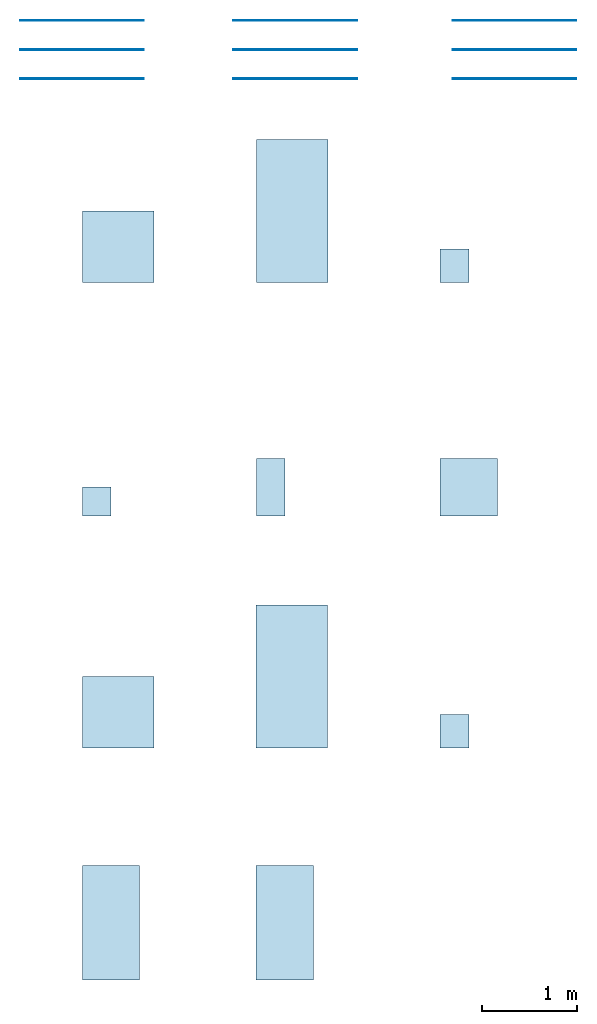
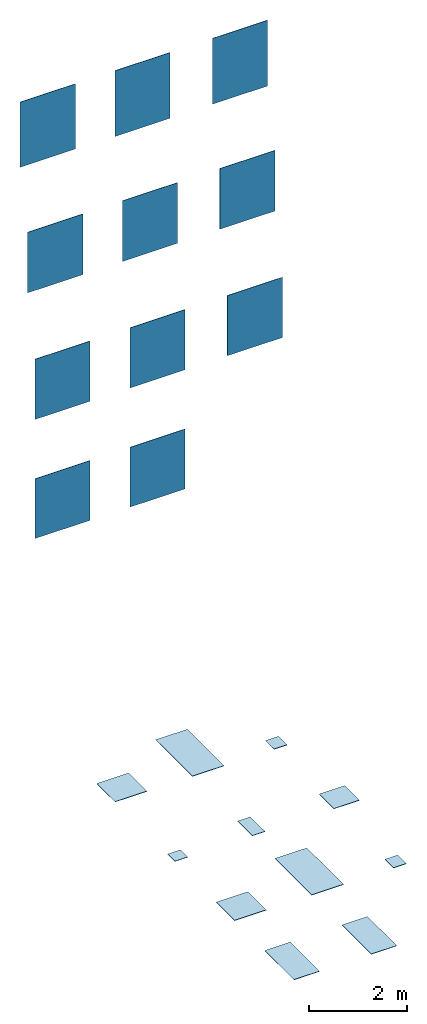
# One storey: 11 slabs, 11 walls.
"""IFC2X3 building model written with IfcOpenShell, lengths in millimetres."""

import ifcopenshell
import ifcopenshell.guid

model = None  # the IFC model being written
_history = None  # IfcOwnerHistory: only IFC2X3 demands one
_inside = {}  # id of a spatial element -> (the spatial element, [elements in it])
_under = {}  # id of a project, library or spatial element -> (it, [spatial elements below it])
_declared = {}  # id of a project -> (the project, [libraries it declares])
_typed = {}  # id of a type object -> (the type object, [elements of that type])
_made_of = {}  # id of a material, layer set ... -> (it, [elements and type objects made of it])


def new_model(schema):
    """Start an empty IFC model of exactly this schema.

    Asked for "IFC4X3", IfcOpenShell would pick the latest addendum, in which some entities
    have other attributes; the version numbers below select the first issue.
    IFC2X3 requires an IfcOwnerHistory on every rooted entity: one is made here for all.
    """
    global model, _history
    if schema == "IFC4X3":
        model = ifcopenshell.file(schema_version=(4, 3, 0, 0))
    else:
        model = ifcopenshell.file(schema=schema)
    _inside.clear()
    _under.clear()
    _declared.clear()
    _typed.clear()
    _made_of.clear()
    _history = None
    if model.schema == "IFC2X3":
        org = make("IfcOrganization", Name="unknown")
        user = make(
            "IfcPersonAndOrganization",
            ThePerson=make("IfcPerson", FamilyName="unknown"),
            TheOrganization=org,
        )
        app = make(
            "IfcApplication",
            ApplicationDeveloper=org,
            Version="unknown",
            ApplicationFullName="unknown",
            ApplicationIdentifier="unknown",
        )
        _history = make(
            "IfcOwnerHistory",
            OwningUser=user,
            OwningApplication=app,
            ChangeAction="ADDED",
            CreationDate=0,
        )
    return model


def make(cls, **values):
    """One entity of the class cls with the attributes given. An attribute that is None is left unset."""
    return model.create_entity(
        cls, **{name: value for name, value in values.items() if value is not None}
    )


def entity(cls, *values):
    """Any entity or typed value of the class cls, its attributes in the order of the schema. None: left unset."""
    e = model.create_entity(cls)
    for i, value in enumerate(values):
        if value is not None:
            e[i] = value
    return e


def rooted(cls, **values):
    """An entity with a GlobalId (a new one), such as an element, a storey or a relation."""
    return make(cls, GlobalId=ifcopenshell.guid.new(), OwnerHistory=_history, **values)


def si_unit(unit_type, name, prefix=None):
    """IfcSIUnit, for example si_unit("LENGTHUNIT", "METRE", prefix="MILLI")."""
    return make("IfcSIUnit", UnitType=unit_type, Prefix=prefix, Name=name)


def converted_unit(unit_type, name, factor, base, dimensions=None, offset=None):
    """IfcConversionBasedUnit, such as the inch: factor (a typed value) times the base unit."""
    return make(
        "IfcConversionBasedUnit"
        if offset is None
        else "IfcConversionBasedUnitWithOffset",
        ConversionOffset=offset,
        Dimensions=None
        if dimensions is None
        else entity("IfcDimensionalExponents", *dimensions),
        UnitType=unit_type,
        Name=name,
        ConversionFactor=make(
            "IfcMeasureWithUnit", ValueComponent=factor, UnitComponent=base
        ),
    )


def derived_unit(unit_type, elements):
    """IfcDerivedUnit: a product of units, each with its exponent."""
    return make(
        "IfcDerivedUnit",
        Elements=[
            make("IfcDerivedUnitElement", Unit=unit, Exponent=power)
            for unit, power in elements
        ],
        UnitType=unit_type,
    )


def assignment(units):
    """IfcUnitAssignment: the units of a project."""
    return None if units is None else make("IfcUnitAssignment", Units=units)


def point(xyz):
    """IfcCartesianPoint."""
    return None if xyz is None else make("IfcCartesianPoint", Coordinates=xyz)


def direction(xyz):
    """IfcDirection."""
    return None if xyz is None else make("IfcDirection", DirectionRatios=xyz)


def frame(location, z_axis=None, x_axis=None):
    """IfcAxis2Placement3D, a coordinate frame: its origin and axes. An axis left out is left unset."""
    return make(
        "IfcAxis2Placement3D",
        Location=point(location),
        Axis=direction(z_axis),
        RefDirection=direction(x_axis),
    )


def frame_2d(location, x_axis=None):
    """IfcAxis2Placement2D, a coordinate frame in the plane: its origin and x axis."""
    return make(
        "IfcAxis2Placement2D", Location=point(location), RefDirection=direction(x_axis)
    )


def origin():
    """The frame at (0, 0, 0) with its axes left unset."""
    return frame((0.0, 0.0, 0.0))


def origin_2d_with_axis():
    """The frame at (0, 0) in the plane with the x axis (1, 0) written out."""
    return frame_2d((0.0, 0.0), x_axis=(1.0, 0.0))


def place(relative_to, where):
    """IfcLocalPlacement: puts the frame where relative to a parent placement (None: the world)."""
    return make(
        "IfcLocalPlacement", PlacementRelTo=relative_to, RelativePlacement=where
    )


def context(
    kind, dimensions, precision=None, world=None, true_north=None, identifier=None
):
    """IfcGeometricRepresentationContext, for example the 3D "Model" context."""
    return make(
        "IfcGeometricRepresentationContext",
        ContextIdentifier=identifier,
        ContextType=kind,
        CoordinateSpaceDimension=dimensions,
        Precision=precision,
        WorldCoordinateSystem=world,
        TrueNorth=true_north,
    )


def subcontext(parent, identifier, kind, view, scale=None):
    """IfcGeometricRepresentationSubContext, for example "Body" below "Model"."""
    return make(
        "IfcGeometricRepresentationSubContext",
        ContextIdentifier=identifier,
        ContextType=kind,
        ParentContext=parent,
        TargetScale=scale,
        TargetView=view,
    )


def project(units=None, contexts=None):
    """IfcProject with its units and contexts."""
    return rooted(
        "IfcProject",
        Name="project",
        RepresentationContexts=contexts,
        UnitsInContext=assignment(units),
    )


def spatial(cls, under=None, at=None, **own):
    """A site, building, storey or space (cls), placed at a placement, below another one or the project."""
    s = rooted(cls, ObjectPlacement=at, **own)
    if under is not None:
        _under.setdefault(under.id(), (under, []))[1].append(s)
    return s


def profile(cls, at=None, kind="AREA", **sizes):
    """A parametric profile (cls). Its sizes go by their IFC names, for example OverallWidth=200.0."""
    return make(cls, ProfileType=kind, Position=at, **sizes)


def rectangle(**sizes):
    """IfcRectangleProfileDef."""
    return profile("IfcRectangleProfileDef", **sizes)


def extrude(swept, where, along, depth):
    """IfcExtrudedAreaSolid: the profile swept, set in the frame where, extruded along a direction by depth."""
    return make(
        "IfcExtrudedAreaSolid",
        SweptArea=swept,
        Position=where,
        ExtrudedDirection=direction(along),
        Depth=depth,
    )


def shape(context_of_items, identifier, shape_type, items):
    """IfcShapeRepresentation: the items that make up one representation, for example the "Body"."""
    return make(
        "IfcShapeRepresentation",
        ContextOfItems=context_of_items,
        RepresentationIdentifier=identifier,
        RepresentationType=shape_type,
        Items=items,
    )


def material(Name=None, Category=None):
    """IfcMaterial."""
    return make("IfcMaterial", Name=Name, Category=Category)


def layer(
    of_material, thickness, ventilated=None, Name=None, Category=None, Priority=None
):
    """IfcMaterialLayer: one layer of a wall or slab, of a material (None: an air gap)."""
    return make(
        "IfcMaterialLayer",
        Material=of_material,
        LayerThickness=thickness,
        IsVentilated=ventilated,
        Name=Name,
        Category=Category,
        Priority=Priority,
    )


def layer_set(layers, Name=None):
    """IfcMaterialLayerSet."""
    return make("IfcMaterialLayerSet", MaterialLayers=layers, LayerSetName=Name)


def layer_usage(for_layer_set, set_direction, sense, offset, extent=None):
    """IfcMaterialLayerSetUsage: how a layer set lies in its element."""
    return make(
        "IfcMaterialLayerSetUsage",
        ForLayerSet=for_layer_set,
        LayerSetDirection=set_direction,
        DirectionSense=sense,
        OffsetFromReferenceLine=offset,
        ReferenceExtent=extent,
    )


def made_of(thing, what):
    """Note that an element or type object is made of a material, layer set ...; save() writes the relation."""
    if what is not None:
        _made_of.setdefault(what.id(), (what, []))[1].append(thing)
    return thing


def type_object(cls, material=None, **own):
    """A type object (cls), such as IfcWallType, which elements share."""
    return made_of(rooted(cls, **own), material)


def element(
    cls,
    number,
    at=None,
    inside=None,
    cuts=None,
    type_object=None,
    material=None,
    context=None,
    identifier="Body",
    shape_type=None,
    held_by="IfcProductDefinitionShape",
    body=None,
    shapes=None,
    **own,
):
    """One element of the class cls, such as IfcWall. Its Tag is "e" and its number.

    at: its placement. inside: the storey or other place that contains it. cuts: it is an
    opening in that element (IfcRelVoidsElement). A single representation is given by context,
    identifier, shape_type and body (its items); several are given by shapes. held_by: the class
    of the entity that holds the representations. save() writes the other relations.
    """
    e = rooted(cls, Tag="e%d" % number, ObjectPlacement=at, **own)
    if body is not None:
        shapes = [shape(context, identifier, shape_type, body)]
    if shapes is not None:
        e.Representation = make(held_by, Representations=shapes)
    if inside is not None:
        _inside.setdefault(inside.id(), (inside, []))[1].append(e)
    if cuts is not None:
        rooted(
            "IfcRelVoidsElement", RelatingBuildingElement=cuts, RelatedOpeningElement=e
        )
    if type_object is not None:
        _typed.setdefault(type_object.id(), (type_object, []))[1].append(e)
    return made_of(e, material)


def aggregate(whole, parts):
    """IfcRelAggregates: a whole, such as a stair, and the parts it consists of."""
    return rooted("IfcRelAggregates", RelatingObject=whole, RelatedObjects=parts)


def save(model, path):
    """Write the relations noted so far, then the file.

    IfcRelAggregates (storeys below a building ...), IfcRelContainedInSpatialStructure (elements
    in a storey), IfcRelDefinesByType, IfcRelAssociatesMaterial and IfcRelDeclares: one each for
    every whole, place, type object, material and project.
    """
    for whole, parts in _under.values():
        aggregate(whole, parts)
    for where, things in _inside.values():
        rooted(
            "IfcRelContainedInSpatialStructure",
            RelatedElements=things,
            RelatingStructure=where,
        )
    for kind, things in _typed.values():
        rooted("IfcRelDefinesByType", RelatedObjects=things, RelatingType=kind)
    for what, things in _made_of.values():
        rooted("IfcRelAssociatesMaterial", RelatedObjects=things, RelatingMaterial=what)
    for by, libraries in _declared.values():
        rooted("IfcRelDeclares", RelatingContext=by, RelatedDefinitions=libraries)
    model.write(path)


model = new_model("IFC2X3")

# Units and contexts
model_context = context("Model", 3, precision=0.01, world=origin(), true_north=direction((6.123031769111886e-17, 1.0)))
body_context = subcontext(model_context, "Body", "Model", "MODEL_VIEW")
ifc_project = project(units=[si_unit("LENGTHUNIT", "METRE", prefix="MILLI"), si_unit("AREAUNIT", "SQUARE_METRE"), si_unit("VOLUMEUNIT", "CUBIC_METRE"), converted_unit("PLANEANGLEUNIT", "DEGREE", entity("IfcPlaneAngleMeasure", 0.017453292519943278), si_unit("PLANEANGLEUNIT", "RADIAN"), dimensions=[0, 0, 0, 0, 0, 0, 0]), si_unit("MASSUNIT", "GRAM", prefix="KILO"), derived_unit("MASSDENSITYUNIT", [(si_unit("MASSUNIT", "GRAM", prefix="KILO"), 1), (si_unit("LENGTHUNIT", "METRE"), -3)]), derived_unit("IONCONCENTRATIONUNIT", [(si_unit("MASSUNIT", "GRAM", prefix="KILO"), 1), (si_unit("LENGTHUNIT", "METRE"), -3)]), derived_unit("MOMENTOFINERTIAUNIT", [(si_unit("LENGTHUNIT", "METRE"), 4)]), si_unit("TIMEUNIT", "SECOND"), si_unit("FREQUENCYUNIT", "HERTZ"), si_unit("THERMODYNAMICTEMPERATUREUNIT", "DEGREE_CELSIUS"), derived_unit("THERMALTRANSMITTANCEUNIT", [(si_unit("MASSUNIT", "GRAM", prefix="KILO"), 1), (si_unit("THERMODYNAMICTEMPERATUREUNIT", "KELVIN"), -1), (si_unit("TIMEUNIT", "SECOND"), -3)]), derived_unit("THERMALCONDUCTANCEUNIT", [(si_unit("MASSUNIT", "GRAM", prefix="KILO"), 1), (si_unit("THERMODYNAMICTEMPERATUREUNIT", "KELVIN"), -1), (si_unit("TIMEUNIT", "SECOND"), -3), (si_unit("LENGTHUNIT", "METRE"), 1)]), derived_unit("VOLUMETRICFLOWRATEUNIT", [(si_unit("LENGTHUNIT", "METRE", prefix="DECI"), 3), (si_unit("TIMEUNIT", "SECOND"), -1)]), derived_unit("MASSFLOWRATEUNIT", [(si_unit("MASSUNIT", "GRAM", prefix="KILO"), 1), (si_unit("TIMEUNIT", "SECOND"), -1)]), derived_unit("ROTATIONALFREQUENCYUNIT", [(si_unit("TIMEUNIT", "SECOND"), -1)]), si_unit("ELECTRICCURRENTUNIT", "AMPERE"), si_unit("ELECTRICVOLTAGEUNIT", "VOLT"), si_unit("POWERUNIT", "WATT"), si_unit("FORCEUNIT", "NEWTON", prefix="KILO"), si_unit("ILLUMINANCEUNIT", "LUX"), si_unit("LUMINOUSFLUXUNIT", "LUMEN"), si_unit("LUMINOUSINTENSITYUNIT", "CANDELA"), si_unit("ENERGYUNIT", "JOULE"), derived_unit("USERDEFINED", [(si_unit("MASSUNIT", "GRAM", prefix="KILO"), -1), (si_unit("LENGTHUNIT", "METRE"), -2), (si_unit("TIMEUNIT", "SECOND"), 3), (si_unit("LUMINOUSFLUXUNIT", "LUMEN"), 1)]), derived_unit("USERDEFINED", [(si_unit("MASSUNIT", "GRAM", prefix="KILO"), 1), (si_unit("TIMEUNIT", "SECOND"), -3), (si_unit("LENGTHUNIT", "METRE"), 3), (si_unit("ELECTRICCURRENTUNIT", "AMPERE"), -2)]), derived_unit("SOUNDPOWERUNIT", [(si_unit("MASSUNIT", "GRAM", prefix="KILO"), 1), (si_unit("TIMEUNIT", "SECOND"), -3), (si_unit("LENGTHUNIT", "METRE"), 2)]), derived_unit("SOUNDPRESSUREUNIT", [(si_unit("MASSUNIT", "GRAM", prefix="KILO"), 1), (si_unit("LENGTHUNIT", "METRE"), -1), (si_unit("TIMEUNIT", "SECOND"), -2)]), derived_unit("LINEARVELOCITYUNIT", [(si_unit("LENGTHUNIT", "METRE"), 1), (si_unit("TIMEUNIT", "SECOND"), -1)]), si_unit("PRESSUREUNIT", "PASCAL"), derived_unit("USERDEFINED", [(si_unit("MASSUNIT", "GRAM", prefix="KILO"), 1), (si_unit("LENGTHUNIT", "METRE"), -2), (si_unit("TIMEUNIT", "SECOND"), -2)]), derived_unit("LINEARFORCEUNIT", [(si_unit("MASSUNIT", "GRAM", prefix="KILO"), 1), (si_unit("TIMEUNIT", "SECOND"), -2)]), derived_unit("PLANARFORCEUNIT", [(si_unit("MASSUNIT", "GRAM", prefix="KILO"), 1), (si_unit("LENGTHUNIT", "METRE"), -1), (si_unit("TIMEUNIT", "SECOND"), -2)]), derived_unit("SPECIFICHEATCAPACITYUNIT", [(si_unit("THERMODYNAMICTEMPERATUREUNIT", "KELVIN"), -1), (si_unit("LENGTHUNIT", "METRE"), 2), (si_unit("TIMEUNIT", "SECOND"), -2)]), derived_unit("HEATFLUXDENSITYUNIT", [(si_unit("MASSUNIT", "GRAM", prefix="KILO"), 1), (si_unit("TIMEUNIT", "SECOND"), -3)]), derived_unit("HEATINGVALUEUNIT", [(si_unit("LENGTHUNIT", "METRE"), 2), (si_unit("TIMEUNIT", "SECOND"), -2)]), derived_unit("VAPORPERMEABILITYUNIT", [(si_unit("LENGTHUNIT", "METRE"), -1), (si_unit("TIMEUNIT", "SECOND"), 1)]), derived_unit("DYNAMICVISCOSITYUNIT", [(si_unit("MASSUNIT", "GRAM", prefix="KILO"), 1), (si_unit("TIMEUNIT", "SECOND"), -1), (si_unit("LENGTHUNIT", "METRE"), -1)]), derived_unit("THERMALEXPANSIONCOEFFICIENTUNIT", [(si_unit("THERMODYNAMICTEMPERATUREUNIT", "KELVIN"), -1)]), derived_unit("MODULUSOFELASTICITYUNIT", [(si_unit("MASSUNIT", "GRAM", prefix="KILO"), 1), (si_unit("LENGTHUNIT", "METRE"), -1), (si_unit("TIMEUNIT", "SECOND"), -2)]), derived_unit("ISOTHERMALMOISTURECAPACITYUNIT", [(si_unit("MASSUNIT", "GRAM", prefix="KILO"), -1), (si_unit("LENGTHUNIT", "METRE"), 3)]), derived_unit("MOISTUREDIFFUSIVITYUNIT", [(si_unit("TIMEUNIT", "SECOND"), -1), (si_unit("LENGTHUNIT", "METRE"), 2)]), derived_unit("MASSPERLENGTHUNIT", [(si_unit("MASSUNIT", "GRAM", prefix="KILO"), 1), (si_unit("LENGTHUNIT", "METRE"), -1)]), derived_unit("THERMALRESISTANCEUNIT", [(si_unit("MASSUNIT", "GRAM", prefix="KILO"), -1), (si_unit("TIMEUNIT", "SECOND"), 3), (si_unit("THERMODYNAMICTEMPERATUREUNIT", "KELVIN"), 1)]), derived_unit("ACCELERATIONUNIT", [(si_unit("LENGTHUNIT", "METRE"), 1), (si_unit("TIMEUNIT", "SECOND"), -2)]), derived_unit("ANGULARVELOCITYUNIT", [(si_unit("TIMEUNIT", "SECOND"), -1), (si_unit("PLANEANGLEUNIT", "RADIAN"), 1)]), derived_unit("LINEARSTIFFNESSUNIT", [(si_unit("MASSUNIT", "GRAM", prefix="KILO"), 1), (si_unit("TIMEUNIT", "SECOND"), -2)]), derived_unit("WARPINGCONSTANTUNIT", [(si_unit("LENGTHUNIT", "METRE"), 6)]), derived_unit("LINEARMOMENTUNIT", [(si_unit("MASSUNIT", "GRAM", prefix="KILO"), 1), (si_unit("LENGTHUNIT", "METRE"), 1), (si_unit("TIMEUNIT", "SECOND"), -2)]), derived_unit("TORQUEUNIT", [(si_unit("MASSUNIT", "GRAM", prefix="KILO"), 1), (si_unit("LENGTHUNIT", "METRE"), 2), (si_unit("TIMEUNIT", "SECOND"), -2)])], contexts=[model_context])

# Site, building, storey
site_placement = place(None, origin())
site = spatial("IfcSite", under=ifc_project, at=site_placement, Name="Default", CompositionType="ELEMENT")
building_placement = place(site_placement, origin())
building = spatial("IfcBuilding", under=site, at=building_placement, CompositionType="ELEMENT")
storey_placement = place(building_placement, origin())
storey = spatial("IfcBuildingStorey", under=building, at=storey_placement, Name="Level 0", CompositionType="ELEMENT", Elevation=0.0)

# Slabs
ifc_material_1 = material(Name="Prestigio Travertino-Beige-Lucido-Mosaico-Cube 30.4x35.2 OO30")
ifc_layer_1 = layer(ifc_material_1, 9.0)
ifc_material_2 = material(Name="<Unnamed>")
ifc_layer_2 = layer(ifc_material_2, 1.0)
ifc_layer_set_1 = layer_set([ifc_layer_1, ifc_layer_2], Name="Floor:Floor_Tiles_Refin-Prestigio_Travertino-Beige-Lucido-Mosaico-Cube 30.4x35.2 OO30")
ifc_layer_usage_1 = layer_usage(ifc_layer_set_1, "AXIS3", "POSITIVE", 0.0)
slab_type_1 = type_object("IfcSlabType", Name="Floor:Floor_Tiles_Refin-Prestigio_Travertino-Beige-Lucido-Mosaico-Cube 30.4x35.2 OO30", PredefinedType="FLOOR", material=ifc_layer_set_1)
slab_1_placement = place(storey_placement, origin())
element("IfcSlab", 1, at=slab_1_placement, inside=storey, type_object=slab_type_1, material=ifc_layer_usage_1, Name="Floor:Floor_Tiles_Refin-Prestigio_Travertino-Beige-Lucido-Mosaico-Cube 30.4x35.2 OO30", ObjectType="Floor:Floor_Tiles_Refin-Prestigio_Travertino-Beige-Lucido-Mosaico-Cube 30.4x35.2 OO30", PredefinedType="FLOOR", context=body_context, shape_type="SweptSolid", body=[
    extrude(rectangle(XDim=352.0000000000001, YDim=304.00000000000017, at=origin_2d_with_axis()), frame((10479.186141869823, 5565.462374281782, 0.0), z_axis=(0.0, 0.0, -1.0), x_axis=(0.0, 1.0, 0.0)), (0.0, 0.0, 1.0), 10.0),
])
ifc_material_3 = material(Name="Prestigio Travertino-Beige-Lucido-75x75 OO01")
ifc_layer_3 = layer(ifc_material_3, 9.0)
ifc_layer_4 = layer(ifc_material_2, 1.0)
ifc_layer_set_2 = layer_set([ifc_layer_3, ifc_layer_4], Name="Floor:Floor_Tiles_Refin-Prestigio_Travertino-Beige-Lucido-75x75 OO01")
ifc_layer_usage_2 = layer_usage(ifc_layer_set_2, "AXIS3", "POSITIVE", 0.0)
slab_type_2 = type_object("IfcSlabType", Name="Floor:Floor_Tiles_Refin-Prestigio_Travertino-Beige-Lucido-75x75 OO01", PredefinedType="FLOOR", material=ifc_layer_set_2)
slab_2_placement = place(storey_placement, origin())
element("IfcSlab", 2, at=slab_2_placement, inside=storey, type_object=slab_type_2, material=ifc_layer_usage_2, Name="Floor:Floor_Tiles_Refin-Prestigio_Travertino-Beige-Lucido-75x75 OO01", ObjectType="Floor:Floor_Tiles_Refin-Prestigio_Travertino-Beige-Lucido-75x75 OO01", PredefinedType="FLOOR", context=body_context, shape_type="SweptSolid", body=[
    extrude(rectangle(XDim=749.9999999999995, YDim=750.0000000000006, at=frame_2d((5.400124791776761e-13, 1.0800249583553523e-12), x_axis=(1.0, 0.0))), frame((6949.375206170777, 5764.462374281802, 0.0), z_axis=(0.0, 0.0, -1.0), x_axis=(0.0, 1.0, 0.0)), (0.0, 0.0, 1.0), 10.0),
])
ifc_material_4 = material(Name="Prestigio Travertino-Beige-Soft-60x60 OO04")
ifc_layer_5 = layer(ifc_material_4, 9.0)
ifc_layer_6 = layer(ifc_material_2, 1.0)
ifc_layer_set_3 = layer_set([ifc_layer_5, ifc_layer_6], Name="Floor:Floor_Tiles_Refin-Prestigio_Travertino-Beige-Soft-60x60 OO04")
ifc_layer_usage_3 = layer_usage(ifc_layer_set_3, "AXIS3", "POSITIVE", 0.0)
slab_type_3 = type_object("IfcSlabType", Name="Floor:Floor_Tiles_Refin-Prestigio_Travertino-Beige-Soft-60x60 OO04", PredefinedType="FLOOR", material=ifc_layer_set_3)
slab_3_placement = place(storey_placement, origin())
element("IfcSlab", 3, at=slab_3_placement, inside=storey, type_object=slab_type_3, material=ifc_layer_usage_3, Name="Floor:Floor_Tiles_Refin-Prestigio_Travertino-Beige-Soft-60x60 OO04", ObjectType="Floor:Floor_Tiles_Refin-Prestigio_Travertino-Beige-Soft-60x60 OO04", PredefinedType="FLOOR", context=body_context, shape_type="SweptSolid", body=[
    extrude(rectangle(XDim=600.0, YDim=600.0, at=frame_2d((0.0, 1.0800249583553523e-12), x_axis=(1.0, 0.0))), frame((10627.186141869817, 3239.462374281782, 0.0), z_axis=(0.0, 0.0, -1.0), x_axis=(0.0, 1.0, 0.0)), (0.0, 0.0, 1.0), 10.0),
])
ifc_material_5 = material(Name="Prestigio Travertino-Beige-Soft-30x60 OO07")
ifc_layer_7 = layer(ifc_material_5, 9.0)
ifc_layer_8 = layer(ifc_material_2, 1.0)
ifc_layer_set_4 = layer_set([ifc_layer_7, ifc_layer_8], Name="Floor:Floor_Tiles_Refin-Prestigio_Travertino-Beige-Soft-30x60 OO07")
ifc_layer_usage_4 = layer_usage(ifc_layer_set_4, "AXIS3", "POSITIVE", 0.0)
slab_type_4 = type_object("IfcSlabType", Name="Floor:Floor_Tiles_Refin-Prestigio_Travertino-Beige-Soft-30x60 OO07", PredefinedType="FLOOR", material=ifc_layer_set_4)
slab_4_placement = place(storey_placement, origin())
element("IfcSlab", 4, at=slab_4_placement, inside=storey, type_object=slab_type_4, material=ifc_layer_usage_4, Name="Floor:Floor_Tiles_Refin-Prestigio_Travertino-Beige-Soft-30x60 OO07", ObjectType="Floor:Floor_Tiles_Refin-Prestigio_Travertino-Beige-Soft-30x60 OO07", PredefinedType="FLOOR", context=body_context, shape_type="SweptSolid", body=[
    extrude(rectangle(XDim=600.0, YDim=300.0, at=frame_2d((0.0, 5.400124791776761e-13), x_axis=(1.0, 0.0))), frame((8547.392405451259, 3239.462374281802, 0.0), z_axis=(0.0, 0.0, -1.0), x_axis=(0.0, 1.0, 0.0)), (0.0, 0.0, 1.0), 10.0),
])
ifc_material_6 = material(Name="Prestigio Travertino-Beige-Mix-Mosaico-T 30x30 OO36")
ifc_layer_9 = layer(ifc_material_6, 9.0)
ifc_layer_10 = layer(ifc_material_2, 1.0)
ifc_layer_set_5 = layer_set([ifc_layer_9, ifc_layer_10], Name="Floor:Floor_Tiles_Refin-Prestigio_Travertino-Beige-Lucido-Mosaico-T 30x30 OO36")
ifc_layer_usage_5 = layer_usage(ifc_layer_set_5, "AXIS3", "POSITIVE", 0.0)
slab_type_5 = type_object("IfcSlabType", Name="Floor:Floor_Tiles_Refin-Prestigio_Travertino-Beige-Lucido-Mosaico-T 30x30 OO36", PredefinedType="FLOOR", material=ifc_layer_set_5)
slab_5_placement = place(storey_placement, origin())
element("IfcSlab", 5, at=slab_5_placement, inside=storey, type_object=slab_type_5, material=ifc_layer_usage_5, Name="Floor:Floor_Tiles_Refin-Prestigio_Travertino-Beige-Lucido-Mosaico-T 30x30 OO36", ObjectType="Floor:Floor_Tiles_Refin-Prestigio_Travertino-Beige-Lucido-Mosaico-T 30x30 OO36", PredefinedType="FLOOR", context=body_context, shape_type="SweptSolid", body=[
    extrude(rectangle(XDim=300.0, YDim=300.0, at=frame_2d((0.0, -5.400124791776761e-13), x_axis=(1.0, 0.0))), frame((6724.375206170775, 3089.462374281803, 0.0), z_axis=(0.0, 0.0, -1.0), x_axis=(0.0, 1.0, 0.0)), (0.0, 0.0, 1.0), 10.0),
])
ifc_material_7 = material(Name="Prestigio Travertino-Beige-Soft-75x75 ON98")
ifc_layer_11 = layer(ifc_material_7, 9.0)
ifc_layer_12 = layer(ifc_material_2, 1.0)
ifc_layer_set_6 = layer_set([ifc_layer_11, ifc_layer_12], Name="Floor:Floor_Tiles_Refin-Prestigio_Travertino-Beige-Soft-75x75 ON98")
ifc_layer_usage_6 = layer_usage(ifc_layer_set_6, "AXIS3", "POSITIVE", 0.0)
slab_type_6 = type_object("IfcSlabType", Name="Floor:Floor_Tiles_Refin-Prestigio_Travertino-Beige-Soft-75x75 ON98", PredefinedType="FLOOR", material=ifc_layer_set_6)
slab_6_placement = place(storey_placement, origin())
element("IfcSlab", 6, at=slab_6_placement, inside=storey, type_object=slab_type_6, material=ifc_layer_usage_6, Name="Floor:Floor_Tiles_Refin-Prestigio_Travertino-Beige-Soft-75x75 ON98", ObjectType="Floor:Floor_Tiles_Refin-Prestigio_Travertino-Beige-Soft-75x75 ON98", PredefinedType="FLOOR", context=body_context, shape_type="SweptSolid", body=[
    extrude(rectangle(XDim=750.0, YDim=750.0000000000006, at=frame_2d((0.0, -1.0800249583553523e-12), x_axis=(1.0, 0.0))), frame((6947.600933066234, 878.4367234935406, 0.0), z_axis=(0.0, 0.0, -1.0), x_axis=(0.0, 1.0, 0.0)), (0.0, 0.0, 1.0), 10.0),
])
ifc_material_8 = material(Name="Prestigio Travertino-Beige-Lucido-75x150 OM86")
ifc_layer_13 = layer(ifc_material_8, 9.0)
ifc_layer_14 = layer(ifc_material_2, 1.0)
ifc_layer_set_7 = layer_set([ifc_layer_13, ifc_layer_14], Name="Floor:Floor_Tiles_Refin-Prestigio_Travertino-Beige-Lucido-75x150 OM86")
ifc_layer_usage_7 = layer_usage(ifc_layer_set_7, "AXIS3", "POSITIVE", 0.0)
slab_type_7 = type_object("IfcSlabType", Name="Floor:Floor_Tiles_Refin-Prestigio_Travertino-Beige-Lucido-75x150 OM86", PredefinedType="FLOOR", material=ifc_layer_set_7)
slab_7_placement = place(storey_placement, origin())
element("IfcSlab", 7, at=slab_7_placement, inside=storey, type_object=slab_type_7, material=ifc_layer_usage_7, Name="Floor:Floor_Tiles_Refin-Prestigio_Travertino-Beige-Lucido-75x150 OM86", ObjectType="Floor:Floor_Tiles_Refin-Prestigio_Travertino-Beige-Lucido-75x150 OM86", PredefinedType="FLOOR", context=body_context, shape_type="SweptSolid", body=[
    extrude(rectangle(XDim=1500.0, YDim=750.0000000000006, at=frame_2d((-5.115907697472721e-13, 1.0800249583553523e-12), x_axis=(1.0, 0.0))), frame((8772.39240545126, 6138.419206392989, 0.0), z_axis=(0.0, 0.0, -1.0), x_axis=(0.0, 1.0, 0.0)), (0.0, 0.0, 1.0), 10.0),
])
ifc_material_9 = material(Name="Prestigio Travertino-Beige-Soft-75x150 OM83")
ifc_layer_15 = layer(ifc_material_9, 9.0)
ifc_layer_16 = layer(ifc_material_2, 1.0)
ifc_layer_set_8 = layer_set([ifc_layer_15, ifc_layer_16], Name="Floor:Floor_Tiles_Refin-Prestigio_Travertino-Beige-Soft-75x150 OM83")
ifc_layer_usage_8 = layer_usage(ifc_layer_set_8, "AXIS3", "POSITIVE", 0.0)
slab_type_8 = type_object("IfcSlabType", Name="Floor:Floor_Tiles_Refin-Prestigio_Travertino-Beige-Soft-75x150 OM83", PredefinedType="FLOOR", material=ifc_layer_set_8)
slab_8_placement = place(storey_placement, origin())
element("IfcSlab", 8, at=slab_8_placement, inside=storey, type_object=slab_type_8, material=ifc_layer_usage_8, Name="Floor:Floor_Tiles_Refin-Prestigio_Travertino-Beige-Soft-75x150 OM83", ObjectType="Floor:Floor_Tiles_Refin-Prestigio_Travertino-Beige-Soft-75x150 OM83", PredefinedType="FLOOR", context=body_context, shape_type="SweptSolid", body=[
    extrude(rectangle(XDim=1500.0, YDim=750.0000000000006, at=origin_2d_with_axis()), frame((8770.618132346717, 1253.4367234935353, 0.0), z_axis=(0.0, 0.0, -1.0), x_axis=(0.0, 1.0, 0.0)), (0.0, 0.0, 1.0), 10.0),
])
ifc_material_10 = material(Name="Prestigio Travertino-Beige-Soft-Mosaico-Cube 30.4x35.2 OO33")
ifc_layer_17 = layer(ifc_material_10, 9.0)
ifc_layer_18 = layer(ifc_material_2, 1.0)
ifc_layer_set_9 = layer_set([ifc_layer_17, ifc_layer_18], Name="Floor:Floor_Tiles_Refin-Prestigio_Travertino-Beige-Soft-Mosaico-Cube 30.4x35.2 OO33")
ifc_layer_usage_9 = layer_usage(ifc_layer_set_9, "AXIS3", "POSITIVE", 0.0)
slab_type_9 = type_object("IfcSlabType", Name="Floor:Floor_Tiles_Refin-Prestigio_Travertino-Beige-Soft-Mosaico-Cube 30.4x35.2 OO33", PredefinedType="FLOOR", material=ifc_layer_set_9)
slab_9_placement = place(storey_placement, origin())
element("IfcSlab", 9, at=slab_9_placement, inside=storey, type_object=slab_type_9, material=ifc_layer_usage_9, Name="Floor:Floor_Tiles_Refin-Prestigio_Travertino-Beige-Soft-Mosaico-Cube 30.4x35.2 OO33", ObjectType="Floor:Floor_Tiles_Refin-Prestigio_Travertino-Beige-Soft-Mosaico-Cube 30.4x35.2 OO33", PredefinedType="FLOOR", context=body_context, shape_type="SweptSolid", body=[
    extrude(rectangle(XDim=352.0000000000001, YDim=304.00000000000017, at=frame_2d((-7.105427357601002e-14, 0.0), x_axis=(1.0, 0.0))), frame((10477.411868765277, 679.4367234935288, 0.0), z_axis=(0.0, 0.0, -1.0), x_axis=(0.0, 1.0, 0.0)), (0.0, 0.0, 1.0), 10.0),
])
ifc_material_11 = material(Name="Prestigio Travertino-Beige-Soft-60x120 OZ35")
ifc_layer_19 = layer(ifc_material_11, 9.0)
ifc_layer_20 = layer(ifc_material_2, 1.0)
ifc_layer_set_10 = layer_set([ifc_layer_19, ifc_layer_20], Name="Floor:Floor_Tiles_Refin-Prestigio_Travertino-Beige-Soft-60x120 OZ35")
ifc_layer_usage_10 = layer_usage(ifc_layer_set_10, "AXIS3", "POSITIVE", 0.0)
slab_type_10 = type_object("IfcSlabType", Name="Floor:Floor_Tiles_Refin-Prestigio_Travertino-Beige-Soft-60x120 OZ35", PredefinedType="FLOOR", material=ifc_layer_set_10)
slab_10_placement = place(storey_placement, origin())
element("IfcSlab", 10, at=slab_10_placement, inside=storey, type_object=slab_type_10, material=ifc_layer_usage_10, Name="Floor:Floor_Tiles_Refin-Prestigio_Travertino-Beige-Soft-60x120 OZ35", ObjectType="Floor:Floor_Tiles_Refin-Prestigio_Travertino-Beige-Soft-60x120 OZ35", PredefinedType="FLOOR", context=body_context, shape_type="SweptSolid", body=[
    extrude(rectangle(XDim=1200.0, YDim=600.0, at=origin_2d_with_axis()), frame((6872.6009330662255, -1332.588927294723, 0.0), z_axis=(0.0, 0.0, -1.0), x_axis=(0.0, 1.0, 0.0)), (0.0, 0.0, 1.0), 10.0),
])
ifc_material_12 = material(Name="Prestigio Travertino-Dorico-Beige-Soft-60x120 RK78")
ifc_layer_21 = layer(ifc_material_12, 9.0)
ifc_layer_22 = layer(ifc_material_2, 1.0)
ifc_layer_set_11 = layer_set([ifc_layer_21, ifc_layer_22], Name="Floor:Floor_Tiles_Refin-Prestigio_Travertino-Dorico-Beige-Soft-60x120 RK78")
ifc_layer_usage_11 = layer_usage(ifc_layer_set_11, "AXIS3", "POSITIVE", 0.0)
slab_type_11 = type_object("IfcSlabType", Name="Floor:Floor_Tiles_Refin-Prestigio_Travertino-Dorico-Beige-Soft-60x120 RK78", PredefinedType="FLOOR", material=ifc_layer_set_11)
slab_11_placement = place(storey_placement, origin())
element("IfcSlab", 11, at=slab_11_placement, inside=storey, type_object=slab_type_11, material=ifc_layer_usage_11, Name="Floor:Floor_Tiles_Refin-Prestigio_Travertino-Dorico-Beige-Soft-60x120 RK78", ObjectType="Floor:Floor_Tiles_Refin-Prestigio_Travertino-Dorico-Beige-Soft-60x120 RK78", PredefinedType="FLOOR", context=body_context, shape_type="SweptSolid", body=[
    extrude(rectangle(XDim=1200.0, YDim=600.0, at=frame_2d((0.0, 1.0800249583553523e-12), x_axis=(1.0, 0.0))), frame((8695.61813234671, -1332.5889272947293, 0.0), z_axis=(0.0, 0.0, -1.0), x_axis=(0.0, 1.0, 0.0)), (0.0, 0.0, 1.0), 10.0),
])

# Walls
ifc_layer_23 = layer(ifc_material_2, 1.0)
ifc_layer_24 = layer(ifc_material_8, 9.0)
ifc_layer_set_12 = layer_set([ifc_layer_23, ifc_layer_24], Name="Basic Wall:Floor_Tiles_Refin-Prestigio_Travertino-Beige-Lucido-75x150 OM86")
ifc_layer_usage_12 = layer_usage(ifc_layer_set_12, "AXIS2", "NEGATIVE", 5.000000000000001)
wall_type_1 = type_object("IfcWallType", Name="Basic Wall:Floor_Tiles_Refin-Prestigio_Travertino-Beige-Lucido-75x150 OM86", PredefinedType="STANDARD", material=ifc_layer_set_12)
wall_1_placement = place(storey_placement, frame((8157.37520617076, 8137.383863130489, 14387.677044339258)))
element("IfcWallStandardCase", 12, at=wall_1_placement, inside=storey, type_object=wall_type_1, material=ifc_layer_usage_12, Name="Basic Wall:Floor_Tiles_Refin-Prestigio_Travertino-Beige-Lucido-75x150 OM86", ObjectType="Basic Wall:Floor_Tiles_Refin-Prestigio_Travertino-Beige-Lucido-75x150 OM86", context=body_context, shape_type="SweptSolid", body=[
    extrude(rectangle(XDim=1300.0, YDim=9.999999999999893, at=frame_2d((650.0, 7.638334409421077e-14), x_axis=(-1.0, 0.0))), origin(), (0.0, 0.0, 1.0), 1641.7417352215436),
])
ifc_layer_25 = layer(ifc_material_2, 1.0)
ifc_layer_26 = layer(ifc_material_1, 9.0)
ifc_layer_set_13 = layer_set([ifc_layer_25, ifc_layer_26], Name="Basic Wall:Floor_Tiles_Refin-Prestigio_Travertino-Beige-Lucido-Mosaico-Cube 30.4x35.2 OO30")
ifc_layer_usage_13 = layer_usage(ifc_layer_set_13, "AXIS2", "NEGATIVE", 5.000000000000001)
wall_type_2 = type_object("IfcWallType", Name="Basic Wall:Floor_Tiles_Refin-Prestigio_Travertino-Beige-Lucido-Mosaico-Cube 30.4x35.2 OO30", PredefinedType="STANDARD", material=ifc_layer_set_13)
wall_2_placement = place(storey_placement, frame((10457.375206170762, 8137.383863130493, 14387.677044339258)))
element("IfcWallStandardCase", 13, at=wall_2_placement, inside=storey, type_object=wall_type_2, material=ifc_layer_usage_13, Name="Basic Wall:Floor_Tiles_Refin-Prestigio_Travertino-Beige-Lucido-Mosaico-Cube 30.4x35.2 OO30", ObjectType="Basic Wall:Floor_Tiles_Refin-Prestigio_Travertino-Beige-Lucido-Mosaico-Cube 30.4x35.2 OO30", context=body_context, shape_type="SweptSolid", body=[
    extrude(rectangle(XDim=1299.999999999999, YDim=9.999999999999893, at=frame_2d((649.9999999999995, 7.638334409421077e-14), x_axis=(-1.0, 0.0))), origin(), (0.0, 0.0, 1.0), 1641.7417352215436),
])
ifc_layer_27 = layer(ifc_material_2, 1.0)
ifc_layer_28 = layer(ifc_material_3, 9.0)
ifc_layer_set_14 = layer_set([ifc_layer_27, ifc_layer_28], Name="Basic Wall:Floor_Tiles_Refin-Prestigio_Travertino-Beige-Lucido-75x75 OO01")
ifc_layer_usage_14 = layer_usage(ifc_layer_set_14, "AXIS2", "NEGATIVE", 5.000000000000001)
wall_type_3 = type_object("IfcWallType", Name="Basic Wall:Floor_Tiles_Refin-Prestigio_Travertino-Beige-Lucido-75x75 OO01", PredefinedType="STANDARD", material=ifc_layer_set_14)
wall_3_placement = place(storey_placement, frame((5917.375206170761, 8137.383863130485, 14403.726734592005)))
element("IfcWallStandardCase", 14, at=wall_3_placement, inside=storey, type_object=wall_type_3, material=ifc_layer_usage_14, Name="Basic Wall:Floor_Tiles_Refin-Prestigio_Travertino-Beige-Lucido-75x75 OO01", ObjectType="Basic Wall:Floor_Tiles_Refin-Prestigio_Travertino-Beige-Lucido-75x75 OO01", context=body_context, shape_type="SweptSolid", body=[
    extrude(rectangle(XDim=1300.0, YDim=9.999999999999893, at=frame_2d((650.0, 7.638334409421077e-14), x_axis=(-1.0, 0.0))), origin(), (0.0, 0.0, 1.0), 1625.692044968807),
])
ifc_layer_29 = layer(ifc_material_2, 1.0)
ifc_layer_30 = layer(ifc_material_6, 9.0)
ifc_layer_set_15 = layer_set([ifc_layer_29, ifc_layer_30], Name="Basic Wall:Floor_Tiles_Refin-Prestigio_Travertino-Beige-Lucido-Mosaico-T 30x30 OO36")
ifc_layer_usage_15 = layer_usage(ifc_layer_set_15, "AXIS2", "NEGATIVE", 5.000000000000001)
wall_type_4 = type_object("IfcWallType", Name="Basic Wall:Floor_Tiles_Refin-Prestigio_Travertino-Beige-Lucido-Mosaico-T 30x30 OO36", PredefinedType="STANDARD", material=ifc_layer_set_15)
wall_4_placement = place(storey_placement, frame((5917.375206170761, 7832.3838631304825, 11452.543626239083)))
element("IfcWallStandardCase", 15, at=wall_4_placement, inside=storey, type_object=wall_type_4, material=ifc_layer_usage_15, Name="Basic Wall:Floor_Tiles_Refin-Prestigio_Travertino-Beige-Lucido-Mosaico-T 30x30 OO36", ObjectType="Basic Wall:Floor_Tiles_Refin-Prestigio_Travertino-Beige-Lucido-Mosaico-T 30x30 OO36", context=body_context, shape_type="SweptSolid", body=[
    extrude(rectangle(XDim=1300.0, YDim=9.999999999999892, at=frame_2d((650.0, 0.0), x_axis=(-1.0, 0.0))), origin(), (0.0, 0.0, 1.0), 1513.1985565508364),
])
ifc_layer_31 = layer(ifc_material_2, 1.0)
ifc_layer_32 = layer(ifc_material_5, 9.0)
ifc_layer_set_16 = layer_set([ifc_layer_31, ifc_layer_32], Name="Basic Wall:Floor_Tiles_Refin-Prestigio_Travertino-Beige-Soft-30x60 OO07")
ifc_layer_usage_16 = layer_usage(ifc_layer_set_16, "AXIS2", "NEGATIVE", 5.000000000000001)
wall_type_5 = type_object("IfcWallType", Name="Basic Wall:Floor_Tiles_Refin-Prestigio_Travertino-Beige-Soft-30x60 OO07", PredefinedType="STANDARD", material=ifc_layer_set_16)
wall_5_placement = place(storey_placement, frame((8157.375206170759, 7832.383863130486, 11452.543626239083)))
element("IfcWallStandardCase", 16, at=wall_5_placement, inside=storey, type_object=wall_type_5, material=ifc_layer_usage_16, Name="Basic Wall:Floor_Tiles_Refin-Prestigio_Travertino-Beige-Soft-30x60 OO07", ObjectType="Basic Wall:Floor_Tiles_Refin-Prestigio_Travertino-Beige-Soft-30x60 OO07", context=body_context, shape_type="SweptSolid", body=[
    extrude(rectangle(XDim=1300.0, YDim=9.999999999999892, at=frame_2d((650.0, 0.0), x_axis=(-1.0, 0.0))), origin(), (0.0, 0.0, 1.0), 1513.1985565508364),
])
ifc_layer_33 = layer(ifc_material_2, 1.0)
ifc_layer_34 = layer(ifc_material_4, 9.0)
ifc_layer_set_17 = layer_set([ifc_layer_33, ifc_layer_34], Name="Basic Wall:Floor_Tiles_Refin-Prestigio_Travertino-Beige-Soft-60x60 OO04")
ifc_layer_usage_17 = layer_usage(ifc_layer_set_17, "AXIS2", "NEGATIVE", 5.000000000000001)
wall_type_6 = type_object("IfcWallType", Name="Basic Wall:Floor_Tiles_Refin-Prestigio_Travertino-Beige-Soft-60x60 OO04", PredefinedType="STANDARD", material=ifc_layer_set_17)
wall_6_placement = place(storey_placement, frame((10457.37520617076, 7832.383863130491, 11452.543626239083)))
element("IfcWallStandardCase", 17, at=wall_6_placement, inside=storey, type_object=wall_type_6, material=ifc_layer_usage_17, Name="Basic Wall:Floor_Tiles_Refin-Prestigio_Travertino-Beige-Soft-60x60 OO04", ObjectType="Basic Wall:Floor_Tiles_Refin-Prestigio_Travertino-Beige-Soft-60x60 OO04", context=body_context, shape_type="SweptSolid", body=[
    extrude(rectangle(XDim=1300.0000000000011, YDim=9.999999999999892, at=frame_2d((650.0000000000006, 0.0), x_axis=(-1.0, 0.0))), origin(), (0.0, 0.0, 1.0), 1513.1985565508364),
])
ifc_layer_35 = layer(ifc_material_2, 1.0)
ifc_layer_36 = layer(ifc_material_7, 9.0)
ifc_layer_set_18 = layer_set([ifc_layer_35, ifc_layer_36], Name="Basic Wall:Floor_Tiles_Refin-Prestigio_Travertino-Beige-Soft-75x75 ON98")
ifc_layer_usage_18 = layer_usage(ifc_layer_set_18, "AXIS2", "NEGATIVE", 5.000000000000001)
wall_type_7 = type_object("IfcWallType", Name="Basic Wall:Floor_Tiles_Refin-Prestigio_Travertino-Beige-Soft-75x75 ON98", PredefinedType="STANDARD", material=ifc_layer_set_18)
wall_7_placement = place(storey_placement, frame((5917.375206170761, 7527.3838631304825, 8479.102721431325)))
element("IfcWallStandardCase", 18, at=wall_7_placement, inside=storey, type_object=wall_type_7, material=ifc_layer_usage_18, Name="Basic Wall:Floor_Tiles_Refin-Prestigio_Travertino-Beige-Soft-75x75 ON98", ObjectType="Basic Wall:Floor_Tiles_Refin-Prestigio_Travertino-Beige-Soft-75x75 ON98", context=body_context, shape_type="SweptSolid", body=[
    extrude(rectangle(XDim=1300.0, YDim=9.999999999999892, at=frame_2d((650.0, 0.0), x_axis=(-1.0, 0.0))), origin(), (0.0, 0.0, 1.0), 1502.5740159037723),
])
ifc_layer_37 = layer(ifc_material_2, 1.0)
ifc_layer_38 = layer(ifc_material_9, 9.0)
ifc_layer_set_19 = layer_set([ifc_layer_37, ifc_layer_38], Name="Basic Wall:Floor_Tiles_Refin-Prestigio_Travertino-Beige-Soft-75x150 OM83")
ifc_layer_usage_19 = layer_usage(ifc_layer_set_19, "AXIS2", "NEGATIVE", 5.000000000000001)
wall_type_8 = type_object("IfcWallType", Name="Basic Wall:Floor_Tiles_Refin-Prestigio_Travertino-Beige-Soft-75x150 OM83", PredefinedType="STANDARD", material=ifc_layer_set_19)
wall_8_placement = place(storey_placement, frame((8157.375206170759, 7527.383863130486, 8479.102721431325)))
element("IfcWallStandardCase", 19, at=wall_8_placement, inside=storey, type_object=wall_type_8, material=ifc_layer_usage_19, Name="Basic Wall:Floor_Tiles_Refin-Prestigio_Travertino-Beige-Soft-75x150 OM83", ObjectType="Basic Wall:Floor_Tiles_Refin-Prestigio_Travertino-Beige-Soft-75x150 OM83", context=body_context, shape_type="SweptSolid", body=[
    extrude(rectangle(XDim=1300.0, YDim=9.999999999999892, at=frame_2d((650.0, 0.0), x_axis=(-1.0, 0.0))), origin(), (0.0, 0.0, 1.0), 1502.5740159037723),
])
ifc_layer_39 = layer(ifc_material_2, 1.0)
ifc_layer_40 = layer(ifc_material_10, 9.0)
ifc_layer_set_20 = layer_set([ifc_layer_39, ifc_layer_40], Name="Basic Wall:Floor_Tiles_Refin-Prestigio_Travertino-Beige-Soft-Mosaico-Cube 30.4x35.2 OO33")
ifc_layer_usage_20 = layer_usage(ifc_layer_set_20, "AXIS2", "NEGATIVE", 5.000000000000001)
wall_type_9 = type_object("IfcWallType", Name="Basic Wall:Floor_Tiles_Refin-Prestigio_Travertino-Beige-Soft-Mosaico-Cube 30.4x35.2 OO33", PredefinedType="STANDARD", material=ifc_layer_set_20)
wall_9_placement = place(storey_placement, frame((10457.37520617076, 7527.383863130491, 8479.102721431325)))
element("IfcWallStandardCase", 20, at=wall_9_placement, inside=storey, type_object=wall_type_9, material=ifc_layer_usage_20, Name="Basic Wall:Floor_Tiles_Refin-Prestigio_Travertino-Beige-Soft-Mosaico-Cube 30.4x35.2 OO33", ObjectType="Basic Wall:Floor_Tiles_Refin-Prestigio_Travertino-Beige-Soft-Mosaico-Cube 30.4x35.2 OO33", context=body_context, shape_type="SweptSolid", body=[
    extrude(rectangle(XDim=1300.0000000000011, YDim=9.999999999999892, at=frame_2d((650.0000000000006, 0.0), x_axis=(-1.0, 0.0))), origin(), (0.0, 0.0, 1.0), 1502.5740159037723),
])
ifc_layer_41 = layer(ifc_material_2, 1.0)
ifc_layer_42 = layer(ifc_material_11, 9.0)
ifc_layer_set_21 = layer_set([ifc_layer_41, ifc_layer_42], Name="Basic Wall:Floor_Tiles_Refin-Prestigio_Travertino-Beige-Soft-60x120 OZ35")
ifc_layer_usage_21 = layer_usage(ifc_layer_set_21, "AXIS2", "POSITIVE", -5.000000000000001)
wall_type_10 = type_object("IfcWallType", Name="Basic Wall:Floor_Tiles_Refin-Prestigio_Travertino-Beige-Soft-60x120 OZ35", PredefinedType="STANDARD", material=ifc_layer_set_21)
wall_10_placement = place(storey_placement, frame((7217.375206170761, 7527.383863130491, 5505.661816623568), z_axis=(0.0, 0.0, 1.0), x_axis=(-1.0, 0.0, 0.0)))
element("IfcWallStandardCase", 21, at=wall_10_placement, inside=storey, type_object=wall_type_10, material=ifc_layer_usage_21, Name="Basic Wall:Floor_Tiles_Refin-Prestigio_Travertino-Beige-Soft-60x120 OZ35", ObjectType="Basic Wall:Floor_Tiles_Refin-Prestigio_Travertino-Beige-Soft-60x120 OZ35", context=body_context, shape_type="SweptSolid", body=[
    extrude(rectangle(XDim=1300.0, YDim=9.999999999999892, at=frame_2d((650.0, 0.0), x_axis=(-1.0, 0.0))), origin(), (0.0, 0.0, 1.0), 1491.9494752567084),
])
ifc_layer_43 = layer(ifc_material_2, 1.0)
ifc_layer_44 = layer(ifc_material_12, 9.0)
ifc_layer_set_22 = layer_set([ifc_layer_43, ifc_layer_44], Name="Basic Wall:Floor_Tiles_Refin-Prestigio_Travertino-Dorico-Beige-Soft-60x120 RK78")
ifc_layer_usage_22 = layer_usage(ifc_layer_set_22, "AXIS2", "POSITIVE", -5.000000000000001)
wall_type_11 = type_object("IfcWallType", Name="Basic Wall:Floor_Tiles_Refin-Prestigio_Travertino-Dorico-Beige-Soft-60x120 RK78", PredefinedType="STANDARD", material=ifc_layer_set_22)
wall_11_placement = place(storey_placement, frame((9457.37520617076, 7527.383863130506, 5505.661816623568), z_axis=(0.0, 0.0, 1.0), x_axis=(-1.0, 0.0, 0.0)))
element("IfcWallStandardCase", 22, at=wall_11_placement, inside=storey, type_object=wall_type_11, material=ifc_layer_usage_22, Name="Basic Wall:Floor_Tiles_Refin-Prestigio_Travertino-Dorico-Beige-Soft-60x120 RK78", ObjectType="Basic Wall:Floor_Tiles_Refin-Prestigio_Travertino-Dorico-Beige-Soft-60x120 RK78", context=body_context, shape_type="SweptSolid", body=[
    extrude(rectangle(XDim=1300.0, YDim=9.999999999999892, at=frame_2d((650.0, 0.0), x_axis=(-1.0, 0.0))), origin(), (0.0, 0.0, 1.0), 1491.9494752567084),
])

save(model, "model.ifc")
